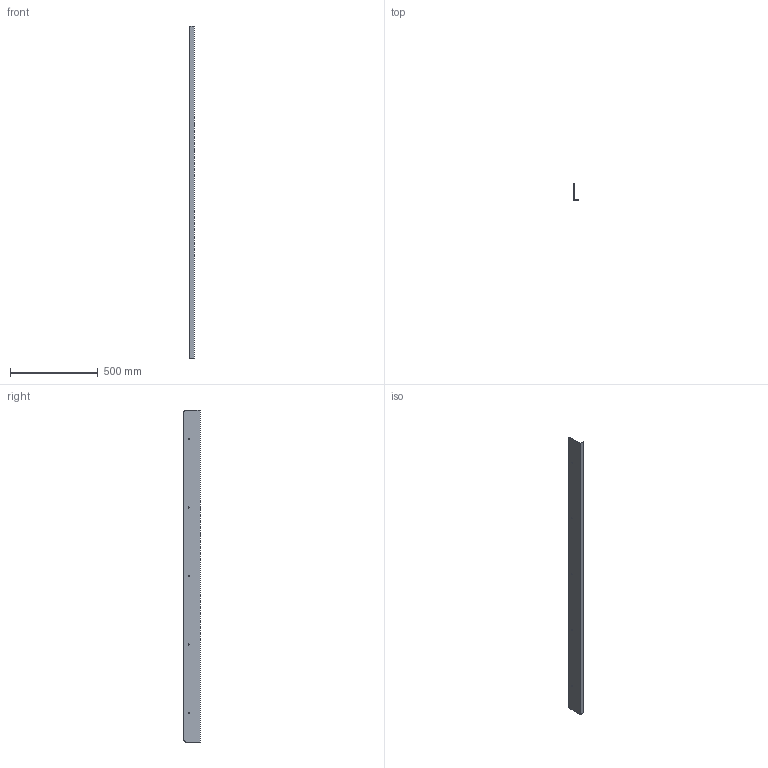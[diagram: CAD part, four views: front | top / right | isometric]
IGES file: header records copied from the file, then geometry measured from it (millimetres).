
Start section: 3D InterOp IGES (Version 23 0 1), Spatial Corp. Copyright (c) 1999-2007.
Global section: file name: Corniere.igs; native system: Spatial Corp.; preprocessor: 3D InterOp GENERIC/IGES 3.0; author: Noname; organization: Noname; date: 20130608.083652; units: millimetre
Bounding box: 25 x 92 x 1890 mm (x, y, z)
Surface area: 442366.4 mm2 (no closed solid volume)
Topology: 0 solids, 0 shells, 20 faces, 108 edges, 108 vertices
Faces by surface type: revolution 12, extrusion 8
